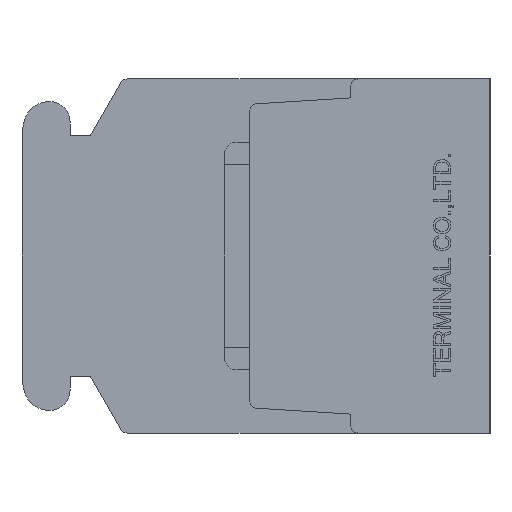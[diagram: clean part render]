
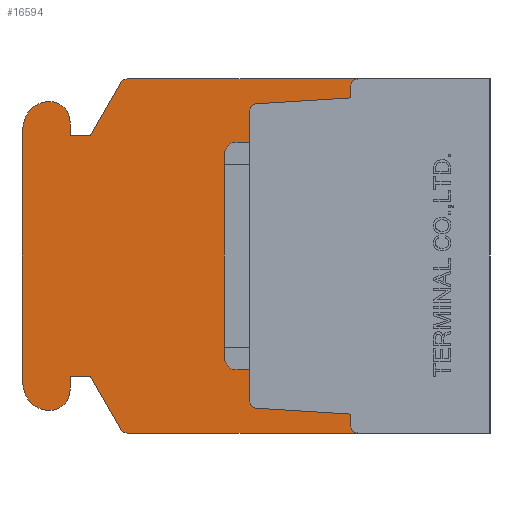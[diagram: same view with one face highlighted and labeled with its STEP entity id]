
A CAD part, left-side view. The second image highlights one B-rep face of the part: STEP entity #16594.
In plain terms, the highlighted planar face has unit normal (-1, 0, 0).
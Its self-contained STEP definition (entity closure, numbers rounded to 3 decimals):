
#718=PLANE('',#17737);
#1303=CIRCLE('',#17738,0.3);
#1304=CIRCLE('',#17739,0.3);
#1305=CIRCLE('',#17740,0.3);
#1306=CIRCLE('',#17741,0.3);
#1307=CIRCLE('',#17742,0.3);
#1308=CIRCLE('',#17743,0.8);
#1309=CIRCLE('',#17744,1.);
#1310=CIRCLE('',#17745,2.);
#1311=CIRCLE('',#17746,2.);
#1312=CIRCLE('',#17747,1.);
#1313=CIRCLE('',#17748,0.8);
#1314=CIRCLE('',#17749,0.3);
#2155=VECTOR('',#19932,1.);
#2156=VECTOR('',#19933,1.);
#2157=VECTOR('',#19936,1.);
#2158=VECTOR('',#19939,1.);
#2159=VECTOR('',#19940,1.);
#2160=VECTOR('',#19943,1.);
#2161=VECTOR('',#19946,1.);
#2162=VECTOR('',#19947,1.);
#2163=VECTOR('',#19948,1.);
#2164=VECTOR('',#19951,1.);
#2165=VECTOR('',#19956,1.);
#2166=VECTOR('',#19961,1.);
#2167=VECTOR('',#19964,1.);
#2168=VECTOR('',#19965,1.);
#2169=VECTOR('',#19966,1.);
#2170=VECTOR('',#19969,1.);
#3998=LINE('',#23920,#2155);
#3999=LINE('',#23922,#2156);
#4000=LINE('',#23926,#2157);
#4001=LINE('',#23930,#2158);
#4002=LINE('',#23932,#2159);
#4003=LINE('',#23936,#2160);
#4004=LINE('',#23940,#2161);
#4005=LINE('',#23942,#2162);
#4006=LINE('',#23944,#2163);
#4007=LINE('',#23948,#2164);
#4008=LINE('',#23954,#2165);
#4009=LINE('',#23960,#2166);
#4010=LINE('',#23964,#2167);
#4011=LINE('',#23966,#2168);
#4012=LINE('',#23968,#2169);
#4013=LINE('',#23972,#2170);
#5827=VERTEX_POINT('',#23918);
#5828=VERTEX_POINT('',#23919);
#5829=VERTEX_POINT('',#23921);
#5830=VERTEX_POINT('',#23923);
#5831=VERTEX_POINT('',#23925);
#5832=VERTEX_POINT('',#23927);
#5833=VERTEX_POINT('',#23929);
#5834=VERTEX_POINT('',#23931);
#5835=VERTEX_POINT('',#23933);
#5836=VERTEX_POINT('',#23935);
#5837=VERTEX_POINT('',#23937);
#5838=VERTEX_POINT('',#23939);
#5839=VERTEX_POINT('',#23941);
#5840=VERTEX_POINT('',#23943);
#5841=VERTEX_POINT('',#23945);
#5842=VERTEX_POINT('',#23947);
#5843=VERTEX_POINT('',#23949);
#5844=VERTEX_POINT('',#23951);
#5845=VERTEX_POINT('',#23953);
#5846=VERTEX_POINT('',#23955);
#5847=VERTEX_POINT('',#23957);
#5848=VERTEX_POINT('',#23959);
#5849=VERTEX_POINT('',#23961);
#5850=VERTEX_POINT('',#23963);
#5851=VERTEX_POINT('',#23965);
#5852=VERTEX_POINT('',#23967);
#5853=VERTEX_POINT('',#23969);
#5854=VERTEX_POINT('',#23971);
#7881=EDGE_CURVE('',#5827,#5828,#1303,.T.);
#7882=EDGE_CURVE('',#5829,#5827,#3998,.T.);
#7883=EDGE_CURVE('',#5830,#5829,#3999,.T.);
#7884=EDGE_CURVE('',#5831,#5830,#1304,.T.);
#7885=EDGE_CURVE('',#5832,#5831,#4000,.T.);
#7886=EDGE_CURVE('',#5833,#5832,#1305,.T.);
#7887=EDGE_CURVE('',#5834,#5833,#4001,.T.);
#7888=EDGE_CURVE('',#5835,#5834,#4002,.T.);
#7889=EDGE_CURVE('',#5836,#5835,#1306,.T.);
#7890=EDGE_CURVE('',#5837,#5836,#4003,.T.);
#7891=EDGE_CURVE('',#5838,#5837,#1307,.T.);
#7892=EDGE_CURVE('',#5839,#5838,#4004,.T.);
#7893=EDGE_CURVE('',#5840,#5839,#4005,.T.);
#7894=EDGE_CURVE('',#5841,#5840,#4006,.T.);
#7895=EDGE_CURVE('',#5842,#5841,#1308,.T.);
#7896=EDGE_CURVE('',#5843,#5842,#4007,.T.);
#7897=EDGE_CURVE('',#5844,#5843,#1309,.T.);
#7898=EDGE_CURVE('',#5845,#5844,#1310,.T.);
#7899=EDGE_CURVE('',#5846,#5845,#4008,.T.);
#7900=EDGE_CURVE('',#5847,#5846,#1311,.T.);
#7901=EDGE_CURVE('',#5848,#5847,#1312,.T.);
#7902=EDGE_CURVE('',#5849,#5848,#4009,.T.);
#7903=EDGE_CURVE('',#5850,#5849,#1313,.T.);
#7904=EDGE_CURVE('',#5851,#5850,#4010,.T.);
#7905=EDGE_CURVE('',#5852,#5851,#4011,.T.);
#7906=EDGE_CURVE('',#5853,#5852,#4012,.T.);
#7907=EDGE_CURVE('',#5854,#5853,#1314,.T.);
#7908=EDGE_CURVE('',#5828,#5854,#4013,.T.);
#11263=ORIENTED_EDGE('',*,*,#7881,.F.);
#11264=ORIENTED_EDGE('',*,*,#7882,.F.);
#11265=ORIENTED_EDGE('',*,*,#7883,.F.);
#11266=ORIENTED_EDGE('',*,*,#7884,.F.);
#11267=ORIENTED_EDGE('',*,*,#7885,.F.);
#11268=ORIENTED_EDGE('',*,*,#7886,.F.);
#11269=ORIENTED_EDGE('',*,*,#7887,.F.);
#11270=ORIENTED_EDGE('',*,*,#7888,.F.);
#11271=ORIENTED_EDGE('',*,*,#7889,.F.);
#11272=ORIENTED_EDGE('',*,*,#7890,.F.);
#11273=ORIENTED_EDGE('',*,*,#7891,.F.);
#11274=ORIENTED_EDGE('',*,*,#7892,.F.);
#11275=ORIENTED_EDGE('',*,*,#7893,.F.);
#11276=ORIENTED_EDGE('',*,*,#7894,.F.);
#11277=ORIENTED_EDGE('',*,*,#7895,.F.);
#11278=ORIENTED_EDGE('',*,*,#7896,.F.);
#11279=ORIENTED_EDGE('',*,*,#7897,.F.);
#11280=ORIENTED_EDGE('',*,*,#7898,.F.);
#11281=ORIENTED_EDGE('',*,*,#7899,.F.);
#11282=ORIENTED_EDGE('',*,*,#7900,.F.);
#11283=ORIENTED_EDGE('',*,*,#7901,.F.);
#11284=ORIENTED_EDGE('',*,*,#7902,.F.);
#11285=ORIENTED_EDGE('',*,*,#7903,.F.);
#11286=ORIENTED_EDGE('',*,*,#7904,.F.);
#11287=ORIENTED_EDGE('',*,*,#7905,.F.);
#11288=ORIENTED_EDGE('',*,*,#7906,.F.);
#11289=ORIENTED_EDGE('',*,*,#7907,.F.);
#11290=ORIENTED_EDGE('',*,*,#7908,.F.);
#14647=EDGE_LOOP('',(#11263,#11264,#11265,#11266,#11267,#11268,#11269,#11270,
#11271,#11272,#11273,#11274,#11275,#11276,#11277,#11278,#11279,#11280,#11281,
#11282,#11283,#11284,#11285,#11286,#11287,#11288,#11289,#11290));
#15635=FACE_BOUND('',#14647,.T.);
#16594=ADVANCED_FACE('',(#15635),#718,.F.);
#17737=AXIS2_PLACEMENT_3D('',#23916,#19929,$);
#17738=AXIS2_PLACEMENT_3D('',#23917,#19930,#19931);
#17739=AXIS2_PLACEMENT_3D('',#23924,#19934,#19935);
#17740=AXIS2_PLACEMENT_3D('',#23928,#19937,#19938);
#17741=AXIS2_PLACEMENT_3D('',#23934,#19941,#19942);
#17742=AXIS2_PLACEMENT_3D('',#23938,#19944,#19945);
#17743=AXIS2_PLACEMENT_3D('',#23946,#19949,#19950);
#17744=AXIS2_PLACEMENT_3D('',#23950,#19952,#19953);
#17745=AXIS2_PLACEMENT_3D('',#23952,#19954,#19955);
#17746=AXIS2_PLACEMENT_3D('',#23956,#19957,#19958);
#17747=AXIS2_PLACEMENT_3D('',#23958,#19959,#19960);
#17748=AXIS2_PLACEMENT_3D('',#23962,#19962,#19963);
#17749=AXIS2_PLACEMENT_3D('',#23970,#19967,#19968);
#19929=DIRECTION('',(1.,0.,0.));
#19930=DIRECTION('',(-1.,0.,0.));
#19931=DIRECTION('',(0.,0.,-0.3));
#19932=DIRECTION('',(0.,0.,-1.));
#19933=DIRECTION('',(0.,-0.998,-0.062));
#19934=DIRECTION('',(-1.,0.,0.));
#19935=DIRECTION('',(0.,0.,-0.3));
#19936=DIRECTION('',(0.,0.,-1.));
#19937=DIRECTION('',(-1.,0.,0.));
#19938=DIRECTION('',(0.,0.,-0.3));
#19939=DIRECTION('',(0.,0.998,-0.062));
#19940=DIRECTION('',(0.,0.,-1.));
#19941=DIRECTION('',(-1.,0.,0.));
#19942=DIRECTION('',(0.,0.,-0.3));
#19943=DIRECTION('',(0.,-1.,0.));
#19944=DIRECTION('',(1.,0.,0.));
#19945=DIRECTION('',(0.,0.,-0.3));
#19946=DIRECTION('',(0.,-0.5,0.866));
#19947=DIRECTION('',(0.,-1.,0.));
#19948=DIRECTION('',(0.,0.,-1.));
#19949=DIRECTION('',(1.,0.,0.));
#19950=DIRECTION('',(0.,0.,-0.8));
#19951=DIRECTION('',(0.,-1.,0.));
#19952=DIRECTION('',(1.,0.,0.));
#19953=DIRECTION('',(0.,0.,-1.));
#19954=DIRECTION('',(1.,0.,0.));
#19955=DIRECTION('',(0.,0.,-2.));
#19956=DIRECTION('',(0.,0.,1.));
#19957=DIRECTION('',(1.,0.,0.));
#19958=DIRECTION('',(0.,0.,-2.));
#19959=DIRECTION('',(1.,0.,0.));
#19960=DIRECTION('',(0.,0.,-1.));
#19961=DIRECTION('',(0.,1.,0.));
#19962=DIRECTION('',(1.,0.,0.));
#19963=DIRECTION('',(0.,0.,-0.8));
#19964=DIRECTION('',(0.,0.,-1.));
#19965=DIRECTION('',(0.,1.,0.));
#19966=DIRECTION('',(0.,0.5,0.866));
#19967=DIRECTION('',(1.,0.,0.));
#19968=DIRECTION('',(0.,0.,-0.3));
#19969=DIRECTION('',(0.,1.,0.));
#23916=CARTESIAN_POINT('',(8.15,9.311,0.));
#23917=CARTESIAN_POINT('',(8.15,5.2,-6.7));
#23918=CARTESIAN_POINT('',(8.15,5.5,-6.7));
#23919=CARTESIAN_POINT('',(8.15,5.2,-7.));
#23920=CARTESIAN_POINT('',(8.15,5.5,-6.7));
#23921=CARTESIAN_POINT('',(8.15,5.5,-6.25));
#23922=CARTESIAN_POINT('',(8.15,5.5,-6.25));
#23923=CARTESIAN_POINT('',(8.15,9.219,-6.018));
#23924=CARTESIAN_POINT('',(8.15,9.2,-5.718));
#23925=CARTESIAN_POINT('',(8.15,9.5,-5.718));
#23926=CARTESIAN_POINT('',(8.15,9.5,-5.718));
#23927=CARTESIAN_POINT('',(8.15,9.5,5.718));
#23928=CARTESIAN_POINT('',(8.15,9.2,5.718));
#23929=CARTESIAN_POINT('',(8.15,9.219,6.018));
#23930=CARTESIAN_POINT('',(8.15,9.219,6.018));
#23931=CARTESIAN_POINT('',(8.15,5.5,6.25));
#23932=CARTESIAN_POINT('',(8.15,5.5,6.25));
#23933=CARTESIAN_POINT('',(8.15,5.5,6.7));
#23934=CARTESIAN_POINT('',(8.15,5.2,6.7));
#23935=CARTESIAN_POINT('',(8.15,5.2,7.));
#23936=CARTESIAN_POINT('',(8.15,14.327,7.));
#23937=CARTESIAN_POINT('',(8.15,14.327,7.));
#23938=CARTESIAN_POINT('',(8.15,14.327,6.7));
#23939=CARTESIAN_POINT('',(8.15,14.587,6.85));
#23940=CARTESIAN_POINT('',(8.15,15.8,4.75));
#23941=CARTESIAN_POINT('',(8.15,15.8,4.75));
#23942=CARTESIAN_POINT('',(8.15,16.6,4.75));
#23943=CARTESIAN_POINT('',(8.15,16.6,4.75));
#23944=CARTESIAN_POINT('',(8.15,16.6,5.3));
#23945=CARTESIAN_POINT('',(8.15,16.6,5.3));
#23946=CARTESIAN_POINT('',(8.15,17.4,5.3));
#23947=CARTESIAN_POINT('',(8.15,17.4,6.1));
#23948=CARTESIAN_POINT('',(8.15,17.437,6.1));
#23949=CARTESIAN_POINT('',(8.15,17.437,6.1));
#23950=CARTESIAN_POINT('',(8.15,17.437,5.1));
#23951=CARTESIAN_POINT('',(8.15,18.373,5.45));
#23952=CARTESIAN_POINT('',(8.15,16.5,4.75));
#23953=CARTESIAN_POINT('',(8.15,18.5,4.75));
#23954=CARTESIAN_POINT('',(8.15,18.5,-4.75));
#23955=CARTESIAN_POINT('',(8.15,18.5,-4.75));
#23956=CARTESIAN_POINT('',(8.15,16.5,-4.75));
#23957=CARTESIAN_POINT('',(8.15,18.373,-5.45));
#23958=CARTESIAN_POINT('',(8.15,17.437,-5.1));
#23959=CARTESIAN_POINT('',(8.15,17.437,-6.1));
#23960=CARTESIAN_POINT('',(8.15,17.4,-6.1));
#23961=CARTESIAN_POINT('',(8.15,17.4,-6.1));
#23962=CARTESIAN_POINT('',(8.15,17.4,-5.3));
#23963=CARTESIAN_POINT('',(8.15,16.6,-5.3));
#23964=CARTESIAN_POINT('',(8.15,16.6,-4.75));
#23965=CARTESIAN_POINT('',(8.15,16.6,-4.75));
#23966=CARTESIAN_POINT('',(8.15,15.8,-4.75));
#23967=CARTESIAN_POINT('',(8.15,15.8,-4.75));
#23968=CARTESIAN_POINT('',(8.15,14.587,-6.85));
#23969=CARTESIAN_POINT('',(8.15,14.587,-6.85));
#23970=CARTESIAN_POINT('',(8.15,14.327,-6.7));
#23971=CARTESIAN_POINT('',(8.15,14.327,-7.));
#23972=CARTESIAN_POINT('',(8.15,0.,-7.));
